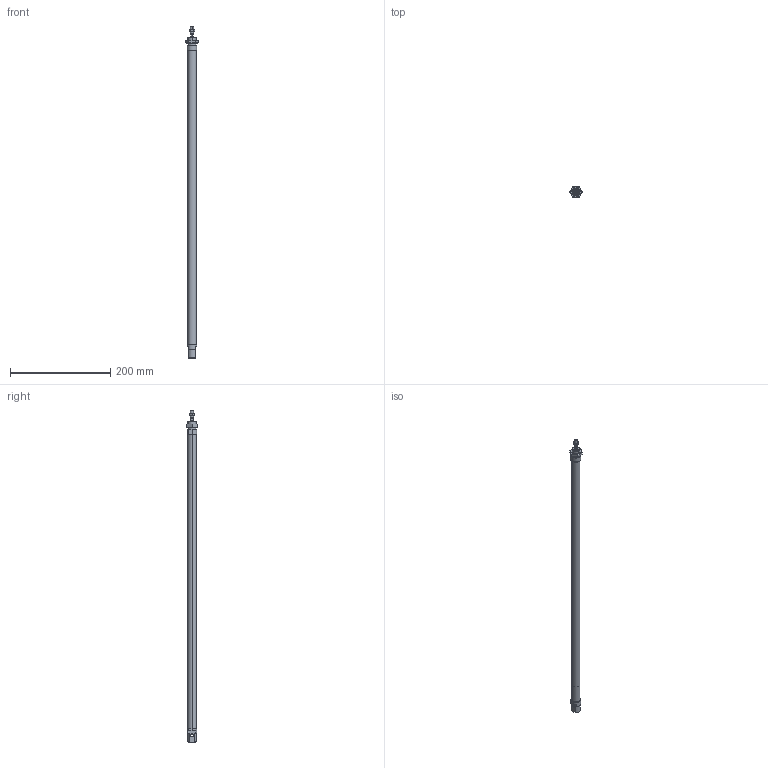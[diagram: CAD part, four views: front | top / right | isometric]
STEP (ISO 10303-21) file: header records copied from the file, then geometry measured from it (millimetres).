
FILE_DESCRIPTION((''),'2;1');
FILE_NAME('5226628040_ASM','2017-02-07T',('hug2hc'),(''),'PRO/ENGINEER BY PARAMETRIC TECHNOLOGY CORPORATION, 2012421','PRO/ENGINEER BY PARAMETRIC TECHNOLOGY CORPORATION, 2012421','');
FILE_SCHEMA(('CONFIG_CONTROL_DESIGN','SHAPE_APPEARANCE_LAYERS_GROUPS'));
Length unit declared in the file: millimetre
Products named in the file (5): 5226628040-A; 5226628040-B; 5226628040-C; 5226628040-D; 5226628040_ASM
Assembly tree (4 placements, depth 2):
  5226628040_ASM
    5226628040-A
    5226628040-B
    5226628040-C
    5226628040-D
Bounding box: 25.4 x 22 x 662 mm (x, y, z)
Volume: 64479.8 mm3; surface area: 82061.8 mm2
Topology: 4 solids, 4 shells, 123 faces, 282 edges, 174 vertices
Faces by surface type: plane 57, cone 34, cylinder 30, torus 2
Entity records: 4003 total; most frequent: CARTESIAN_POINT 1060, DIRECTION 618, ORIENTED_EDGE 564, EDGE_CURVE 282, AXIS2_PLACEMENT_3D 238, VERTEX_POINT 174, VECTOR 142, LINE 142
